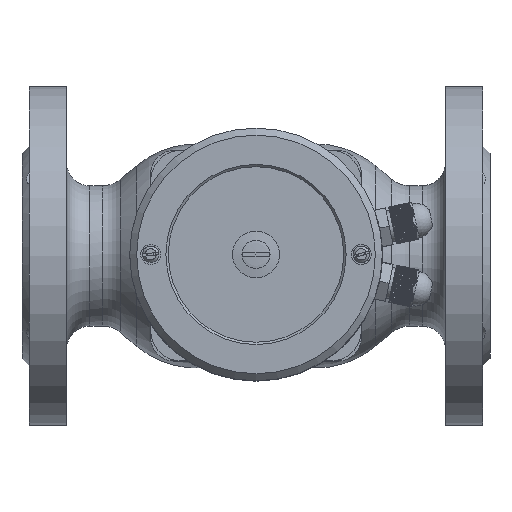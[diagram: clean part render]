
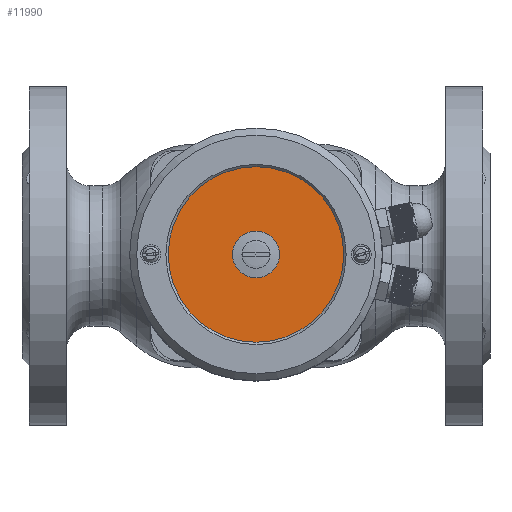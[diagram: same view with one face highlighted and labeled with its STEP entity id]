
A CAD part, top view. The second image highlights one B-rep face of the part: STEP entity #11990.
In plain terms, the highlighted planar face has unit normal (0, 0, 1).
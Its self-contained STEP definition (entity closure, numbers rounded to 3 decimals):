
#11990=ADVANCED_FACE('',(#30880,#30882),#30884,.T.);
#30880=FACE_BOUND('',#30881,.T.);
#30881=EDGE_LOOP('',(#43819));
#30882=FACE_BOUND('',#30883,.T.);
#30883=EDGE_LOOP('',(#43820));
#30884=PLANE('',#30885);
#30885=AXIS2_PLACEMENT_3D('',#30886,#30887,#30888);
#30886=CARTESIAN_POINT('',(0.,0.,376.392));
#30887=DIRECTION('',(0.,0.,1.));
#30888=DIRECTION('',(1.,0.,0.));
#43819=ORIENTED_EDGE('',*,*,#50870,.T.);
#43820=ORIENTED_EDGE('',*,*,#50875,.F.);
#50870=EDGE_CURVE('',#58478,#58478,#58479,.T.);
#50875=EDGE_CURVE('',#58488,#58488,#58489,.T.);
#58478=VERTEX_POINT('',#100673);
#58479=CIRCLE('',#100674,37.5);
#58488=VERTEX_POINT('',#100698);
#58489=CIRCLE('',#100699,10.007);
#100673=CARTESIAN_POINT('',(37.5,0.,376.392));
#100674=AXIS2_PLACEMENT_3D('',#100675,#100676,#100677);
#100675=CARTESIAN_POINT('',(0.,0.,376.392));
#100676=DIRECTION('',(0.,0.,1.));
#100677=DIRECTION('',(1.,0.,0.));
#100698=CARTESIAN_POINT('',(10.007,0.,376.392));
#100699=AXIS2_PLACEMENT_3D('',#100700,#100701,#100702);
#100700=CARTESIAN_POINT('',(0.,0.,376.392));
#100701=DIRECTION('',(0.,0.,1.));
#100702=DIRECTION('',(1.,0.,0.));
